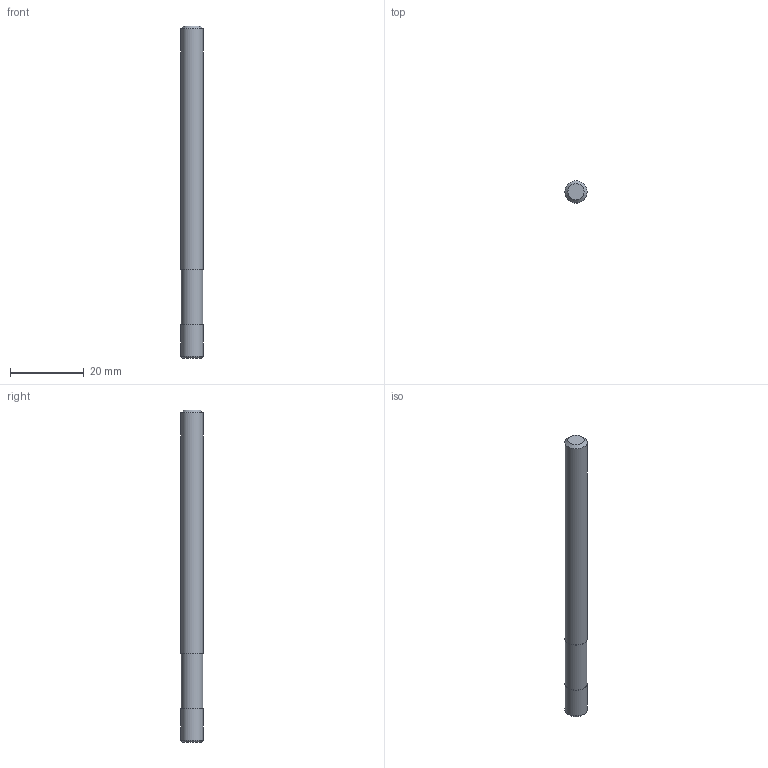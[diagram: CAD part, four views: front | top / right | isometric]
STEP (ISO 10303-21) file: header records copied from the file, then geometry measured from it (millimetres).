
FILE_DESCRIPTION((''),'2;1');
FILE_NAME('C:\Users\nsx150\AppData\Local\Temp\Mastercam 2021\17T8Q8S9EB\TEMP.step','2021-04-21T14:40:45',(''),(''),'STEP Write','Mastercam 2021 ... CNC Software, Inc.','');
FILE_SCHEMA(('AUTOMOTIVE_DESIGN'));
Length unit declared in the file: millimetre
Products named in the file (1): None
Bounding box: 6 x 6 x 90 mm (x, y, z)
Volume: 2510.4 mm3; surface area: 1786.3 mm2
Topology: 2 solids, 2 shells, 10 faces, 13 edges, 8 vertices
Faces by surface type: plane 5, cylinder 3, torus 1, cone 1
Full cylindrical faces by diameter (mm): 5.8 x1, 6 x2
Entity records: 232 total; most frequent: DIRECTION 40, CARTESIAN_POINT 28, AXIS2_PLACEMENT_3D 20, ORIENTED_EDGE 16, EDGE_LOOP 16, STYLED_ITEM 13, ADVANCED_FACE 10, FACE_BOUND 10
